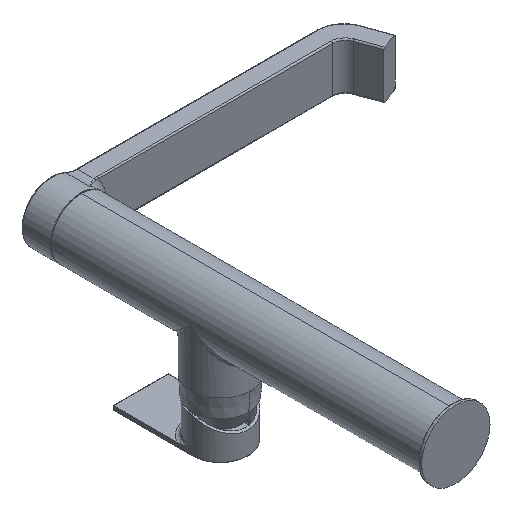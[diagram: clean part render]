
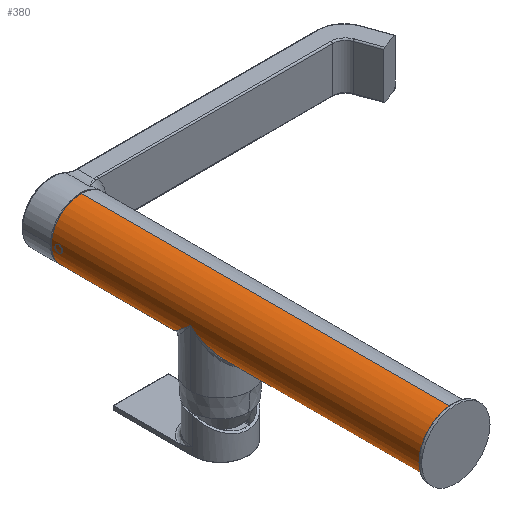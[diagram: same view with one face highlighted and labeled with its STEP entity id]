
A CAD part, isometric view. The second image highlights one B-rep face of the part: STEP entity #380.
In plain terms, the highlighted cylindrical face has radius 22.5 mm (diameter 45 mm), a partial arc.
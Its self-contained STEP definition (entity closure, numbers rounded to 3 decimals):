
#1=CARTESIAN_POINT('',(0.,279.8,0.));
#2=DIRECTION('',(0.,1.,0.));
#3=DIRECTION('',(0.,0.,-1.));
#4=AXIS2_PLACEMENT_3D('',#1,#2,#3);
#6=CARTESIAN_POINT('',(0.,0.2,0.));
#7=DIRECTION('',(0.,-1.,0.));
#8=DIRECTION('',(0.,0.,1.));
#9=AXIS2_PLACEMENT_3D('',#6,#7,#8);
#11=DIRECTION('',(0.,1.,0.));
#12=VECTOR('',#11,149.3);
#13=CARTESIAN_POINT('',(0.,0.2,-22.5));
#14=LINE('',#13,#12);
#15=CARTESIAN_POINT('',(0.,149.5,
-22.5));
#16=CARTESIAN_POINT('',(-0.705,149.5,-22.5));
#17=CARTESIAN_POINT('',(-2.125,149.572,-22.433));
#18=CARTESIAN_POINT('',(-4.254,149.9,-22.13));
#19=CARTESIAN_POINT('',(-6.395,150.463,-21.611));
#20=CARTESIAN_POINT('',(-8.548,151.281,-20.856));
#21=CARTESIAN_POINT('',(-10.703,152.386,-19.841));
#22=CARTESIAN_POINT('',(-12.839,153.811,-18.537));
#23=CARTESIAN_POINT('',(-14.922,155.596,-16.912));
#24=CARTESIAN_POINT('',(-16.903,157.777,-14.943));
#25=CARTESIAN_POINT('',(-18.716,160.387,-12.611));
#26=CARTESIAN_POINT('',(-20.283,163.448,-9.912));
#27=CARTESIAN_POINT('',(-21.515,166.951,-6.867));
#28=CARTESIAN_POINT('',(-22.313,170.857,-3.518));
#29=CARTESIAN_POINT('',(-22.5,173.597,-1.191));
#30=CARTESIAN_POINT('',(-22.5,175.,0.));
#32=CARTESIAN_POINT('',(-22.5,175.,0.));
#33=CARTESIAN_POINT('',(-22.5,176.403,-1.191));
#34=CARTESIAN_POINT('',(-22.314,179.14,-3.516));
#35=CARTESIAN_POINT('',(-21.516,183.046,-6.864));
#36=CARTESIAN_POINT('',(-20.285,186.548,-9.907));
#37=CARTESIAN_POINT('',(-18.72,189.607,-12.605));
#38=CARTESIAN_POINT('',(-16.909,192.217,-14.936));
#39=CARTESIAN_POINT('',(-14.93,194.398,-16.906));
#40=CARTESIAN_POINT('',(-12.848,196.183,-18.53));
#41=CARTESIAN_POINT('',(-10.713,197.609,-19.836));
#42=CARTESIAN_POINT('',(-8.559,198.714,-20.852));
#43=CARTESIAN_POINT('',(-6.408,199.533,-21.607));
#44=CARTESIAN_POINT('',(-4.264,200.097,-22.127));
#45=CARTESIAN_POINT('',(-2.149,200.426,-22.431));
#46=CARTESIAN_POINT('',(-0.715,200.499,-22.5));
#47=CARTESIAN_POINT('',(0.,200.5,-22.5));
#49=DIRECTION('',(0.,1.,0.));
#50=VECTOR('',#49,79.3);
#51=CARTESIAN_POINT('',(0.,200.5,-22.5));
#52=LINE('',#51,#50);
#97=DIRECTION('',(0.,1.,0.));
#98=VECTOR('',#97,279.6);
#99=CARTESIAN_POINT('',(0.,0.2,22.5));
#100=LINE('',#99,#98);
#137=CARTESIAN_POINT('',(-22.5,175.,0.));
#207=CARTESIAN_POINT('',(0.,200.5,-22.5));
#327=VERTEX_POINT('',#137);
#328=VERTEX_POINT('',#207);
#329=VERTEX_POINT('',#15);
#339=CARTESIAN_POINT('',(0.,279.8,-22.5));
#340=CARTESIAN_POINT('',(0.,279.8,22.5));
#341=VERTEX_POINT('',#339);
#342=VERTEX_POINT('',#340);
#343=CARTESIAN_POINT('',(0.,0.2,22.5));
#344=CARTESIAN_POINT('',(0.,0.2,-22.5));
#345=VERTEX_POINT('',#343);
#346=VERTEX_POINT('',#344);
#359=CARTESIAN_POINT('',(0.,0.,0.));
#360=DIRECTION('',(0.,1.,0.));
#361=DIRECTION('',(0.,0.,-1.));
#362=AXIS2_PLACEMENT_3D('',#359,#360,#361);
#363=CYLINDRICAL_SURFACE('',#362,22.5);
#365=ORIENTED_EDGE('',*,*,#364,.T.);
#367=ORIENTED_EDGE('',*,*,#366,.F.);
#369=ORIENTED_EDGE('',*,*,#368,.T.);
#371=ORIENTED_EDGE('',*,*,#370,.T.);
#373=ORIENTED_EDGE('',*,*,#372,.T.);
#375=ORIENTED_EDGE('',*,*,#374,.T.);
#377=ORIENTED_EDGE('',*,*,#376,.T.);
#378=EDGE_LOOP('',(#365,#367,#369,#371,#373,#375,#377));
#379=FACE_OUTER_BOUND('',#378,.F.);
#380=ADVANCED_FACE('',(#379),#363,.T.);
#5=CIRCLE('',#4,22.5);
#10=CIRCLE('',#9,22.5);
#31=B_SPLINE_CURVE_WITH_KNOTS('',3,(#15,#16,#17,#18,#19,#20,#21,#22,#23,#24,#25,
#26,#27,#28,#29,#30),.UNSPECIFIED.,.F.,.F.,(4,1,1,1,1,1,1,1,1,1,1,1,1,4),(0.,
0.077,0.154,0.231,0.308,
0.385,0.462,0.538,0.615,
0.692,0.769,0.846,0.923,1.),
.UNSPECIFIED.);
#48=B_SPLINE_CURVE_WITH_KNOTS('',3,(#32,#33,#34,#35,#36,#37,#38,#39,#40,#41,#42,
#43,#44,#45,#46,#47),.UNSPECIFIED.,.F.,.F.,(4,1,1,1,1,1,1,1,1,1,1,1,1,4),(0.,
0.077,0.154,0.231,0.308,
0.385,0.462,0.538,0.615,
0.692,0.769,0.846,0.923,1.),
.UNSPECIFIED.);
#364=EDGE_CURVE('',#341,#342,#5,.T.);
#366=EDGE_CURVE('',#345,#342,#100,.T.);
#368=EDGE_CURVE('',#345,#346,#10,.T.);
#370=EDGE_CURVE('',#346,#329,#14,.T.);
#372=EDGE_CURVE('',#329,#327,#31,.T.);
#374=EDGE_CURVE('',#327,#328,#48,.T.);
#376=EDGE_CURVE('',#328,#341,#52,.T.);
